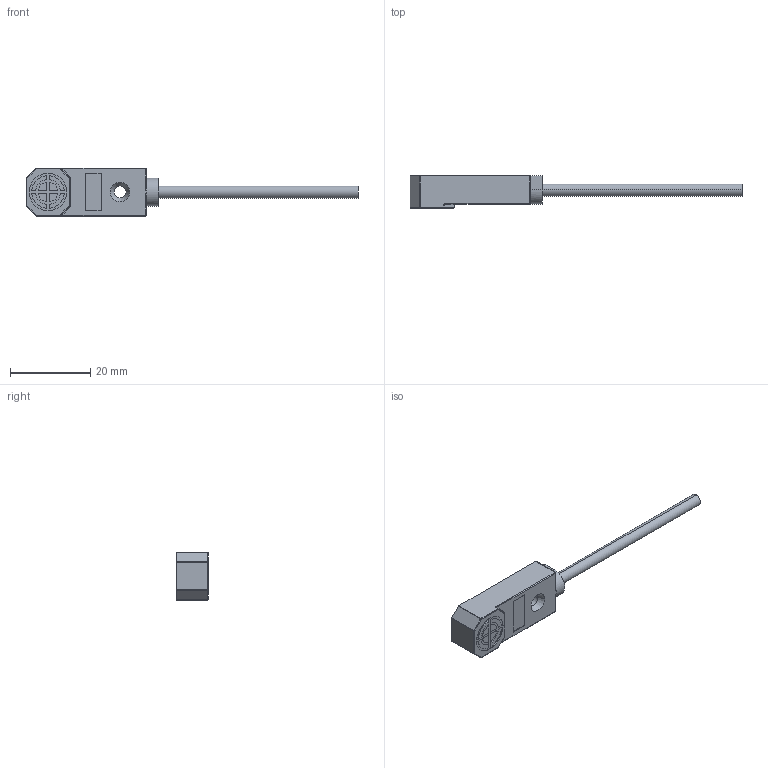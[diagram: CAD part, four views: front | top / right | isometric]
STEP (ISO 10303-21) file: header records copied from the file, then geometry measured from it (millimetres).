
FILE_DESCRIPTION (( 'STEP AP214' ), '1' );
FILE_NAME ('SP11F-B.STEP', '2025-09-10T11:32:06', ( 'Windows User' ), ( 'P R C' ), 'SwSTEP 2.0', 'SolidWorks 2023', '' );
FILE_SCHEMA (( 'AUTOMOTIVE_DESIGN' ));
Length unit declared in the file: millimetre
Products named in the file (1): SP11F-B
Bounding box: 83 x 8 x 12 mm (x, y, z)
Volume: 3005.8 mm3; surface area: 1967.8 mm2
Topology: 1 solids, 2 shells, 115 faces, 265 edges, 157 vertices
Faces by surface type: plane 49, cylinder 48, sphere 10, bspline 4, cone 2, torus 2
Entity records: 3287 total; most frequent: CARTESIAN_POINT 656, DIRECTION 572, ORIENTED_EDGE 514, EDGE_CURVE 257, AXIS2_PLACEMENT_3D 211, VERTEX_POINT 157, VECTOR 150, LINE 150
